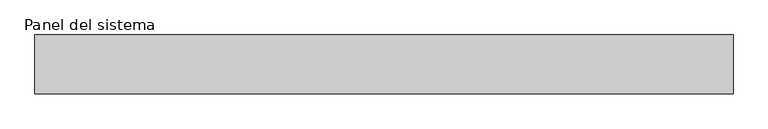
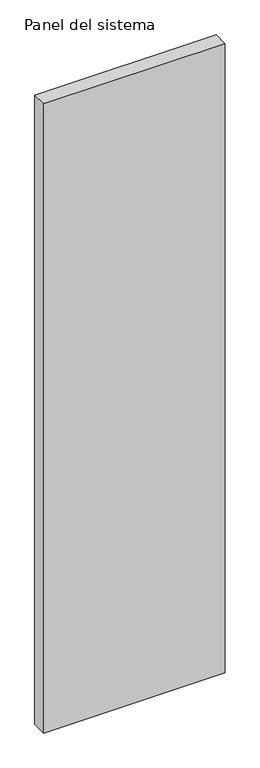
"""IFC4 building model written with IfcOpenShell, lengths in millimetres: plate geometry, Panel del sistema : HIANSA PANEL - PANELES DE CUBIERTA - PANEL TEJA - Esp. 30mm."""

from ifc_helpers import new_model, si_unit, origin, origin_with_axes, place, context, project, spatial, polyline, outline, extrude, source, transform, mapped, element, save


def panel_del_sistema_240816fc(model_context):
    return source(origin(), model_context, "Body", "SweptSolid", [
        extrude(outline(polyline([(500.0000002, 0.0), (-500.0000002, 0.0), (-500.0000002, 84.0), (500.0000002, 84.0), (500.0000002, 0.0)])), origin_with_axes(), (0.0, 0.0, 1.0), 3660.0),
    ])


if __name__ == "__main__":
    model = new_model("IFC4")
    model_context = context("Model", 3, world=origin())
    ifc_project = project(units=[si_unit("LENGTHUNIT", "METRE", prefix="MILLI")], contexts=[model_context])
    site = spatial("IfcSite", under=ifc_project)
    building = spatial("IfcBuilding", under=site)
    placement = place(None, origin())
    panel_del_sistema_shape = panel_del_sistema_240816fc(model_context)
    element("IfcPlate", 1, ObjectType="Panel del sistema : HIANSA PANEL - PANELES DE CUBIERTA - PANEL TEJA - Esp. 30mm", at=placement, inside=building, context=model_context, shape_type="MappedRepresentation", body=[
        mapped(panel_del_sistema_shape, transform((0.0, 0.0, 0.0), x_axis=(1.0, 0.0, 0.0), y_axis=(0.0, 1.0, 0.0), z_axis=(0.0, 0.0, 1.0))),
    ])
    save(model, "model.ifc")
